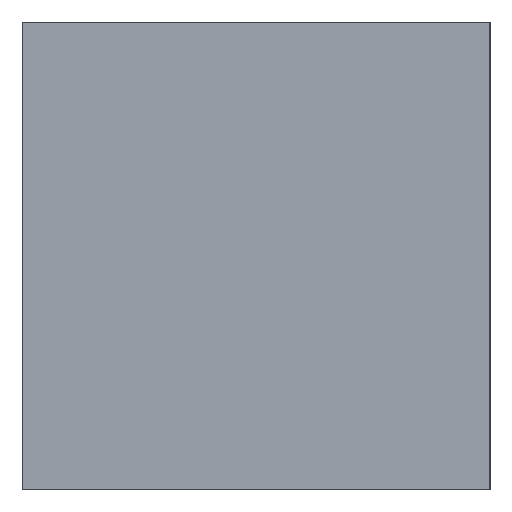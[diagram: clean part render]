
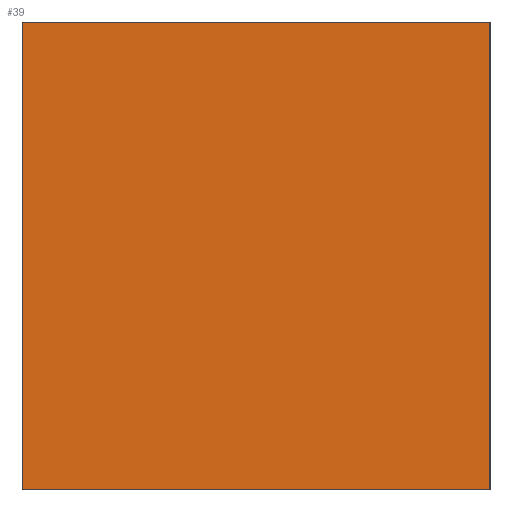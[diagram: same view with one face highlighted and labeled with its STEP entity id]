
A CAD part, left-side view. The second image highlights one B-rep face of the part: STEP entity #39.
In plain terms, the highlighted planar face has unit normal (-1, 0, 0).
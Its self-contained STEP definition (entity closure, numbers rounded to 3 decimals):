
#39 = ADVANCED_FACE('',(#40),#54,.F.);
#40 = FACE_BOUND('',#41,.F.);
#41 = EDGE_LOOP('',(#42,#77,#105,#133));
#42 = ORIENTED_EDGE('',*,*,#43,.F.);
#43 = EDGE_CURVE('',#44,#46,#48,.T.);
#44 = VERTEX_POINT('',#45);
#45 = CARTESIAN_POINT('',(-0.5,-2.5,-2.5));
#46 = VERTEX_POINT('',#47);
#47 = CARTESIAN_POINT('',(-0.5,-2.5,2.5));
#48 = SURFACE_CURVE('',#49,(#53,#65),.PCURVE_S1.);
#49 = LINE('',#50,#51);
#50 = CARTESIAN_POINT('',(-0.5,-2.5,-2.5));
#51 = VECTOR('',#52,1.);
#52 = DIRECTION('',(0.,0.,1.));
#53 = PCURVE('',#54,#59);
#54 = PLANE('',#55);
#55 = AXIS2_PLACEMENT_3D('',#56,#57,#58);
#56 = CARTESIAN_POINT('',(-0.5,-2.5,-2.5));
#57 = DIRECTION('',(1.,0.,-0.));
#58 = DIRECTION('',(0.,0.,1.));
#59 = DEFINITIONAL_REPRESENTATION('',(#60),#64);
#60 = LINE('',#61,#62);
#61 = CARTESIAN_POINT('',(0.,0.));
#62 = VECTOR('',#63,1.);
#63 = DIRECTION('',(1.,0.));
#64 = ( GEOMETRIC_REPRESENTATION_CONTEXT(2) 
PARAMETRIC_REPRESENTATION_CONTEXT() REPRESENTATION_CONTEXT('2D SPACE',''
  ) );
#65 = PCURVE('',#66,#71);
#66 = PLANE('',#67);
#67 = AXIS2_PLACEMENT_3D('',#68,#69,#70);
#68 = CARTESIAN_POINT('',(-0.5,-2.5,-2.5));
#69 = DIRECTION('',(-0.,1.,0.));
#70 = DIRECTION('',(0.,0.,1.));
#71 = DEFINITIONAL_REPRESENTATION('',(#72),#76);
#72 = LINE('',#73,#74);
#73 = CARTESIAN_POINT('',(0.,0.));
#74 = VECTOR('',#75,1.);
#75 = DIRECTION('',(1.,0.));
#76 = ( GEOMETRIC_REPRESENTATION_CONTEXT(2) 
PARAMETRIC_REPRESENTATION_CONTEXT() REPRESENTATION_CONTEXT('2D SPACE',''
  ) );
#77 = ORIENTED_EDGE('',*,*,#78,.T.);
#78 = EDGE_CURVE('',#44,#79,#81,.T.);
#79 = VERTEX_POINT('',#80);
#80 = CARTESIAN_POINT('',(-0.5,2.5,-2.5));
#81 = SURFACE_CURVE('',#82,(#86,#93),.PCURVE_S1.);
#82 = LINE('',#83,#84);
#83 = CARTESIAN_POINT('',(-0.5,-2.5,-2.5));
#84 = VECTOR('',#85,1.);
#85 = DIRECTION('',(-0.,1.,0.));
#86 = PCURVE('',#54,#87);
#87 = DEFINITIONAL_REPRESENTATION('',(#88),#92);
#88 = LINE('',#89,#90);
#89 = CARTESIAN_POINT('',(0.,0.));
#90 = VECTOR('',#91,1.);
#91 = DIRECTION('',(0.,-1.));
#92 = ( GEOMETRIC_REPRESENTATION_CONTEXT(2) 
PARAMETRIC_REPRESENTATION_CONTEXT() REPRESENTATION_CONTEXT('2D SPACE',''
  ) );
#93 = PCURVE('',#94,#99);
#94 = PLANE('',#95);
#95 = AXIS2_PLACEMENT_3D('',#96,#97,#98);
#96 = CARTESIAN_POINT('',(-0.5,-2.5,-2.5));
#97 = DIRECTION('',(0.,0.,1.));
#98 = DIRECTION('',(1.,0.,-0.));
#99 = DEFINITIONAL_REPRESENTATION('',(#100),#104);
#100 = LINE('',#101,#102);
#101 = CARTESIAN_POINT('',(0.,0.));
#102 = VECTOR('',#103,1.);
#103 = DIRECTION('',(0.,1.));
#104 = ( GEOMETRIC_REPRESENTATION_CONTEXT(2) 
PARAMETRIC_REPRESENTATION_CONTEXT() REPRESENTATION_CONTEXT('2D SPACE',''
  ) );
#105 = ORIENTED_EDGE('',*,*,#106,.T.);
#106 = EDGE_CURVE('',#79,#107,#109,.T.);
#107 = VERTEX_POINT('',#108);
#108 = CARTESIAN_POINT('',(-0.5,2.5,2.5));
#109 = SURFACE_CURVE('',#110,(#114,#121),.PCURVE_S1.);
#110 = LINE('',#111,#112);
#111 = CARTESIAN_POINT('',(-0.5,2.5,-2.5));
#112 = VECTOR('',#113,1.);
#113 = DIRECTION('',(0.,0.,1.));
#114 = PCURVE('',#54,#115);
#115 = DEFINITIONAL_REPRESENTATION('',(#116),#120);
#116 = LINE('',#117,#118);
#117 = CARTESIAN_POINT('',(0.,-5.));
#118 = VECTOR('',#119,1.);
#119 = DIRECTION('',(1.,0.));
#120 = ( GEOMETRIC_REPRESENTATION_CONTEXT(2) 
PARAMETRIC_REPRESENTATION_CONTEXT() REPRESENTATION_CONTEXT('2D SPACE',''
  ) );
#121 = PCURVE('',#122,#127);
#122 = PLANE('',#123);
#123 = AXIS2_PLACEMENT_3D('',#124,#125,#126);
#124 = CARTESIAN_POINT('',(-0.5,2.5,-2.5));
#125 = DIRECTION('',(-0.,1.,0.));
#126 = DIRECTION('',(0.,0.,1.));
#127 = DEFINITIONAL_REPRESENTATION('',(#128),#132);
#128 = LINE('',#129,#130);
#129 = CARTESIAN_POINT('',(0.,0.));
#130 = VECTOR('',#131,1.);
#131 = DIRECTION('',(1.,0.));
#132 = ( GEOMETRIC_REPRESENTATION_CONTEXT(2) 
PARAMETRIC_REPRESENTATION_CONTEXT() REPRESENTATION_CONTEXT('2D SPACE',''
  ) );
#133 = ORIENTED_EDGE('',*,*,#134,.F.);
#134 = EDGE_CURVE('',#46,#107,#135,.T.);
#135 = SURFACE_CURVE('',#136,(#140,#147),.PCURVE_S1.);
#136 = LINE('',#137,#138);
#137 = CARTESIAN_POINT('',(-0.5,-2.5,2.5));
#138 = VECTOR('',#139,1.);
#139 = DIRECTION('',(-0.,1.,0.));
#140 = PCURVE('',#54,#141);
#141 = DEFINITIONAL_REPRESENTATION('',(#142),#146);
#142 = LINE('',#143,#144);
#143 = CARTESIAN_POINT('',(5.,0.));
#144 = VECTOR('',#145,1.);
#145 = DIRECTION('',(0.,-1.));
#146 = ( GEOMETRIC_REPRESENTATION_CONTEXT(2) 
PARAMETRIC_REPRESENTATION_CONTEXT() REPRESENTATION_CONTEXT('2D SPACE',''
  ) );
#147 = PCURVE('',#148,#153);
#148 = PLANE('',#149);
#149 = AXIS2_PLACEMENT_3D('',#150,#151,#152);
#150 = CARTESIAN_POINT('',(-0.5,-2.5,2.5));
#151 = DIRECTION('',(0.,0.,1.));
#152 = DIRECTION('',(1.,0.,-0.));
#153 = DEFINITIONAL_REPRESENTATION('',(#154),#158);
#154 = LINE('',#155,#156);
#155 = CARTESIAN_POINT('',(0.,0.));
#156 = VECTOR('',#157,1.);
#157 = DIRECTION('',(0.,1.));
#158 = ( GEOMETRIC_REPRESENTATION_CONTEXT(2) 
PARAMETRIC_REPRESENTATION_CONTEXT() REPRESENTATION_CONTEXT('2D SPACE',''
  ) );
